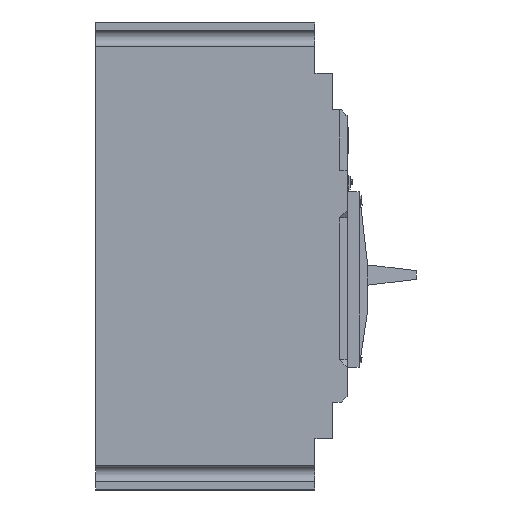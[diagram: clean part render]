
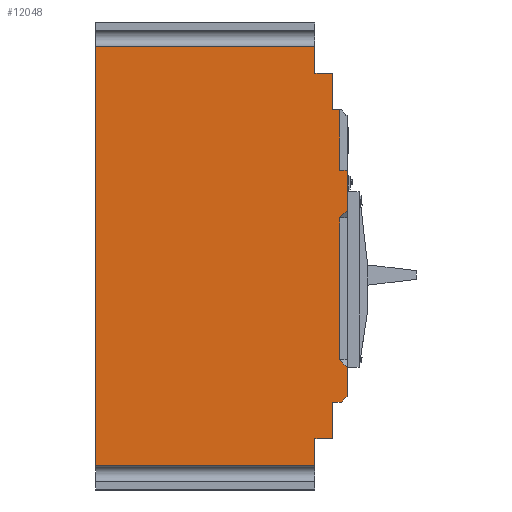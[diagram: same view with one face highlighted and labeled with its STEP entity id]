
A CAD part, left-side view. The second image highlights one B-rep face of the part: STEP entity #12048.
In plain terms, the highlighted planar face has unit normal (-1, 0, 0).
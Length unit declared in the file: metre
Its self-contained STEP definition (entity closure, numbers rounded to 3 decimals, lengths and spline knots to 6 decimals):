
#1351=LINE('',#18752,#2889);
#1376=LINE('',#18823,#2914);
#1384=LINE('',#18843,#2922);
#1426=LINE('',#18965,#2964);
#1442=LINE('',#19065,#2980);
#1444=LINE('',#19072,#2982);
#1493=LINE('',#19215,#3031);
#1497=LINE('',#19225,#3035);
#1500=LINE('',#19231,#3038);
#1503=LINE('',#19237,#3041);
#1508=LINE('',#19247,#3046);
#1510=LINE('',#19252,#3048);
#1513=LINE('',#19257,#3051);
#1514=LINE('',#19260,#3052);
#1515=LINE('',#19262,#3053);
#1516=LINE('',#19263,#3054);
#1517=LINE('',#19264,#3055);
#1518=LINE('',#19265,#3056);
#1519=LINE('',#19266,#3057);
#2889=VECTOR('',#15302,0.0025);
#2914=VECTOR('',#15367,0.0125);
#2922=VECTOR('',#15389,0.006);
#2964=VECTOR('',#15507,0.075);
#2980=VECTOR('',#15619,0.006);
#2982=VECTOR('',#15625,0.075);
#3031=VECTOR('',#15766,0.009279);
#3035=VECTOR('',#15776,0.0125);
#3038=VECTOR('',#15781,0.003);
#3041=VECTOR('',#15786,0.002828);
#3046=VECTOR('',#15793,0.003536);
#3048=VECTOR('',#15797,0.0485);
#3051=VECTOR('',#15802,0.003536);
#3052=VECTOR('',#15805,0.0138);
#3053=VECTOR('',#15806,0.0025);
#3054=VECTOR('',#15807,0.0207);
#3055=VECTOR('',#15808,0.009279);
#3056=VECTOR('',#15809,0.143559);
#3057=VECTOR('',#15810,0.01);
#3634=PLANE('',#12825);
#4351=FACE_OUTER_BOUND('',#5028,.T.);
#5028=EDGE_LOOP('',(#11035,#11036,#11037,#11038,#11039,#11040,#11041,#11042,
#11043,#11044,#11045,#11046,#11047,#11048,#11049,#11050,#11051,#11052,#11053));
#6130=VERTEX_POINT('',#18749);
#6131=VERTEX_POINT('',#18751);
#6157=VERTEX_POINT('',#18821);
#6162=VERTEX_POINT('',#18842);
#6203=VERTEX_POINT('',#18963);
#6204=VERTEX_POINT('',#18964);
#6239=VERTEX_POINT('',#19062);
#6240=VERTEX_POINT('',#19064);
#6241=VERTEX_POINT('',#19068);
#6243=VERTEX_POINT('',#19071);
#6294=VERTEX_POINT('',#19224);
#6296=VERTEX_POINT('',#19230);
#6298=VERTEX_POINT('',#19236);
#6301=VERTEX_POINT('',#19243);
#6302=VERTEX_POINT('',#19245);
#6304=VERTEX_POINT('',#19251);
#6305=VERTEX_POINT('',#19255);
#6306=VERTEX_POINT('',#19259);
#6307=VERTEX_POINT('',#19261);
#7706=EDGE_CURVE('',#6130,#6131,#1351,.T.);
#7742=EDGE_CURVE('',#6157,#6130,#1376,.T.);
#7752=EDGE_CURVE('',#6162,#6157,#1384,.T.);
#7812=EDGE_CURVE('',#6203,#6204,#1426,.T.);
#7856=EDGE_CURVE('',#6240,#6239,#1442,.T.);
#7859=EDGE_CURVE('',#6241,#6243,#1444,.T.);
#7931=EDGE_CURVE('',#6241,#6240,#1493,.T.);
#7936=EDGE_CURVE('',#6294,#6239,#1497,.T.);
#7939=EDGE_CURVE('',#6294,#6296,#1500,.T.);
#7942=EDGE_CURVE('',#6296,#6298,#1503,.T.);
#7947=EDGE_CURVE('',#6301,#6302,#1508,.T.);
#7949=EDGE_CURVE('',#6301,#6304,#1510,.T.);
#7952=EDGE_CURVE('',#6305,#6304,#1513,.T.);
#7953=EDGE_CURVE('',#6306,#6302,#1514,.T.);
#7954=EDGE_CURVE('',#6306,#6307,#1515,.T.);
#7955=EDGE_CURVE('',#6307,#6131,#1516,.T.);
#7956=EDGE_CURVE('',#6162,#6204,#1517,.T.);
#7957=EDGE_CURVE('',#6243,#6203,#1518,.T.);
#7958=EDGE_CURVE('',#6305,#6298,#1519,.T.);
#11035=ORIENTED_EDGE('',*,*,#7949,.F.);
#11036=ORIENTED_EDGE('',*,*,#7947,.T.);
#11037=ORIENTED_EDGE('',*,*,#7953,.F.);
#11038=ORIENTED_EDGE('',*,*,#7954,.T.);
#11039=ORIENTED_EDGE('',*,*,#7955,.T.);
#11040=ORIENTED_EDGE('',*,*,#7706,.F.);
#11041=ORIENTED_EDGE('',*,*,#7742,.F.);
#11042=ORIENTED_EDGE('',*,*,#7752,.F.);
#11043=ORIENTED_EDGE('',*,*,#7956,.T.);
#11044=ORIENTED_EDGE('',*,*,#7812,.F.);
#11045=ORIENTED_EDGE('',*,*,#7957,.F.);
#11046=ORIENTED_EDGE('',*,*,#7859,.F.);
#11047=ORIENTED_EDGE('',*,*,#7931,.T.);
#11048=ORIENTED_EDGE('',*,*,#7856,.T.);
#11049=ORIENTED_EDGE('',*,*,#7936,.F.);
#11050=ORIENTED_EDGE('',*,*,#7939,.T.);
#11051=ORIENTED_EDGE('',*,*,#7942,.T.);
#11052=ORIENTED_EDGE('',*,*,#7958,.F.);
#11053=ORIENTED_EDGE('',*,*,#7952,.T.);
#12048=ADVANCED_FACE('',(#4351),#3634,.T.);
#12825=AXIS2_PLACEMENT_3D('',#19258,#15803,#15804);
#15302=DIRECTION('',(0.,-1.,0.));
#15367=DIRECTION('',(0.,0.,-1.));
#15389=DIRECTION('',(0.,-1.,0.));
#15507=DIRECTION('',(0.,-1.,0.));
#15619=DIRECTION('',(0.,-1.,0.));
#15625=DIRECTION('',(0.,1.,0.));
#15766=DIRECTION('',(0.,0.,1.));
#15776=DIRECTION('',(0.,0.,-1.));
#15781=DIRECTION('',(0.,-1.,0.));
#15786=DIRECTION('',(0.,-0.707,0.707));
#15793=DIRECTION('',(0.,-0.707,0.707));
#15797=DIRECTION('',(0.,0.,-1.));
#15802=DIRECTION('',(0.,0.707,0.707));
#15803=DIRECTION('center_axis',(-1.,0.,0.));
#15804=DIRECTION('ref_axis',(0.,0.,1.));
#15805=DIRECTION('',(0.,0.,-1.));
#15806=DIRECTION('',(0.,1.,0.));
#15807=DIRECTION('',(0.,0.,1.));
#15808=DIRECTION('',(0.,0.,1.));
#15809=DIRECTION('',(0.,0.,1.));
#15810=DIRECTION('',(0.,0.,-1.));
#18749=CARTESIAN_POINT('',(-0.0525,-0.006,0.05));
#18751=CARTESIAN_POINT('',(-0.0525,-0.0085,0.05));
#18752=CARTESIAN_POINT('',(-0.0525,-0.006,0.05));
#18821=CARTESIAN_POINT('',(-0.0525,-0.006,0.0625));
#18823=CARTESIAN_POINT('',(-0.0525,-0.006,0.0625));
#18842=CARTESIAN_POINT('',(-0.0525,0.,0.0625));
#18843=CARTESIAN_POINT('',(-0.0525,0.,0.0625));
#18963=CARTESIAN_POINT('',(-0.0525,0.075,0.071779));
#18964=CARTESIAN_POINT('',(-0.0525,0.,0.071779));
#18965=CARTESIAN_POINT('',(-0.0525,0.075,0.071779));
#19062=CARTESIAN_POINT('',(-0.0525,-0.006,-0.0625));
#19064=CARTESIAN_POINT('',(-0.0525,0.,-0.0625));
#19065=CARTESIAN_POINT('',(-0.0525,0.,-0.0625));
#19068=CARTESIAN_POINT('',(-0.0525,0.,-0.071779));
#19071=CARTESIAN_POINT('',(-0.0525,0.075,-0.071779));
#19072=CARTESIAN_POINT('',(-0.0525,0.,-0.071779));
#19215=CARTESIAN_POINT('',(-0.0525,0.,-0.071779));
#19224=CARTESIAN_POINT('',(-0.0525,-0.006,-0.05));
#19225=CARTESIAN_POINT('',(-0.0525,-0.006,-0.05));
#19230=CARTESIAN_POINT('',(-0.0525,-0.009,-0.05));
#19231=CARTESIAN_POINT('',(-0.0525,-0.006,-0.05));
#19236=CARTESIAN_POINT('',(-0.0525,-0.011,-0.048));
#19237=CARTESIAN_POINT('',(-0.0525,-0.009,-0.05));
#19243=CARTESIAN_POINT('',(-0.0525,-0.0085,0.013));
#19245=CARTESIAN_POINT('',(-0.0525,-0.011,0.0155));
#19247=CARTESIAN_POINT('',(-0.0525,-0.0085,0.013));
#19251=CARTESIAN_POINT('',(-0.0525,-0.0085,-0.0355));
#19252=CARTESIAN_POINT('',(-0.0525,-0.0085,0.013));
#19255=CARTESIAN_POINT('',(-0.0525,-0.011,-0.038));
#19257=CARTESIAN_POINT('',(-0.0525,-0.011,-0.038));
#19258=CARTESIAN_POINT('Origin',(-0.0525,0.075,-0.08));
#19259=CARTESIAN_POINT('',(-0.0525,-0.011,0.0293));
#19260=CARTESIAN_POINT('',(-0.0525,-0.011,0.0293));
#19261=CARTESIAN_POINT('',(-0.0525,-0.0085,0.0293));
#19262=CARTESIAN_POINT('',(-0.0525,-0.011,0.0293));
#19263=CARTESIAN_POINT('',(-0.0525,-0.0085,0.0293));
#19264=CARTESIAN_POINT('',(-0.0525,0.,0.0625));
#19265=CARTESIAN_POINT('',(-0.0525,0.075,-0.071779));
#19266=CARTESIAN_POINT('',(-0.0525,-0.011,-0.038));
